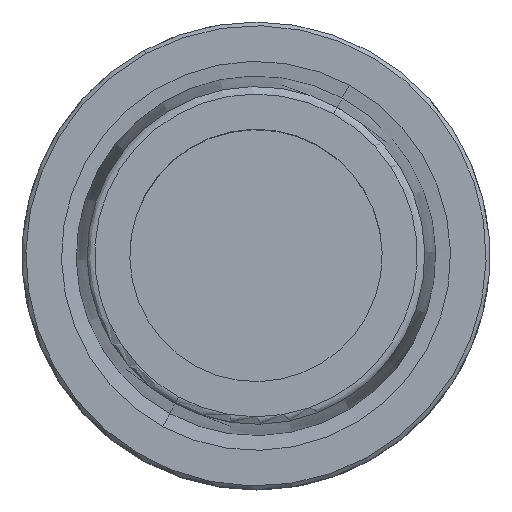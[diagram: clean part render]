
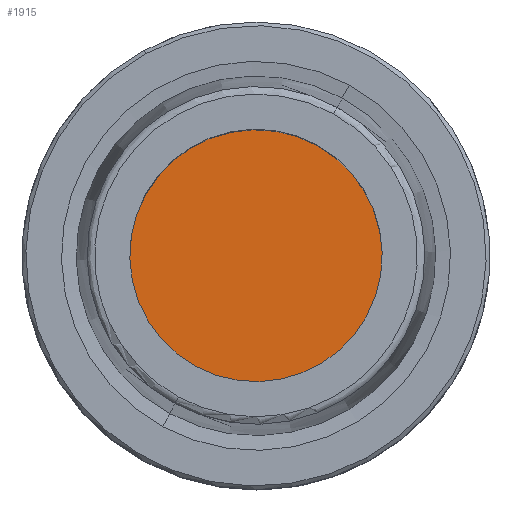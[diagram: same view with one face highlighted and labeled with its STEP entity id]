
A CAD part, top view. The second image highlights one B-rep face of the part: STEP entity #1915.
In plain terms, the highlighted planar face has unit normal (0, 0, 1).
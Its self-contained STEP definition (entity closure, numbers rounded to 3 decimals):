
#1895=AXIS2_PLACEMENT_3D('Plane Axis2P3D',#1892,#1893,#1894) ;
#1899=AXIS2_PLACEMENT_3D('Circle Axis2P3D',#1897,#1898,$) ;
#1908=AXIS2_PLACEMENT_3D('Circle Axis2P3D',#1906,#1907,$) ;
#1892=CARTESIAN_POINT('Axis2P3D Location',(0.,0.,-10.)) ;
#1897=CARTESIAN_POINT('Axis2P3D Location',(0.,0.,-10.)) ;
#1901=CARTESIAN_POINT('Vertex',(8.15,14.919,-10.)) ;
#1903=CARTESIAN_POINT('Vertex',(-8.15,-14.919,-10.)) ;
#1906=CARTESIAN_POINT('Axis2P3D Location',(0.,0.,-10.)) ;
#1893=DIRECTION('Axis2P3D Direction',(0.,0.,1.)) ;
#1894=DIRECTION('Axis2P3D XDirection',(1.,0.,0.)) ;
#1898=DIRECTION('Axis2P3D Direction',(0.,0.,1.)) ;
#1907=DIRECTION('Axis2P3D Direction',(0.,0.,1.)) ;
#1912=ORIENTED_EDGE('',*,*,#1905,.T.) ;
#1913=ORIENTED_EDGE('',*,*,#1910,.T.) ;
#1915=ADVANCED_FACE('NOCUT',(#1914),#1896,.T.) ;
#1900=CIRCLE('generated circle',#1899,17.) ;
#1909=CIRCLE('generated circle',#1908,17.) ;
#1905=EDGE_CURVE('',#1902,#1904,#1900,.T.) ;
#1910=EDGE_CURVE('',#1904,#1902,#1909,.T.) ;
#1911=EDGE_LOOP('',(#1912,#1913)) ;
#1914=FACE_OUTER_BOUND('',#1911,.T.) ;
#1896=PLANE('',#1895) ;
#1902=VERTEX_POINT('',#1901) ;
#1904=VERTEX_POINT('',#1903) ;
